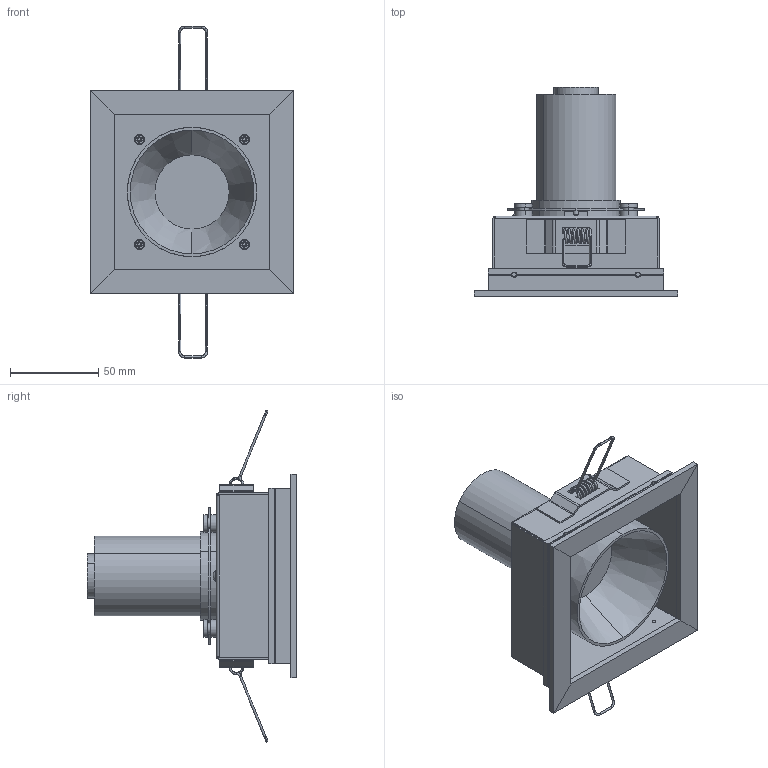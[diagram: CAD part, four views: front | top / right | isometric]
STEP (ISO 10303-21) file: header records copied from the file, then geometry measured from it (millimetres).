
FILE_DESCRIPTION (( 'STEP AP214' ), '1' );
FILE_NAME ('Ringo Box 1.1.STEP', '2018-04-24T14:54:35', ( 'tecnica2' ), ( 'Microsoft' ), 'SwSTEP 2.0', 'SolidWorks 2016', '' );
FILE_SCHEMA (( 'AUTOMOTIVE_DESIGN' ));
Length unit declared in the file: millimetre
Products named in the file (15): aro giratorio_lamp50(para pieza giro); Pieza interior basculanates ringO_R1 sin teton; MODULOS VS-BIM_10W; prisionero M3x3; Muelle pinza_Primera instancia; escuadra muelle_Demetal; Marco Aluminio_1D50 (110x110); Perfil Marco_1D50 L:115mm roscada; Perfil Marco_1D50 L:115mm; Caja_Box 1D50 superficie; Ringo Box 1.1; Remache 4.0-Generico_*7; M3 -Avellanedo Torx_6; Arandela Giro_reducida; prisionero M3x4
Assembly tree (28 placements, depth 3):
  Ringo Box 1.1
    Caja_Box 1D50 superficie
    Marco Aluminio_1D50 (110x110)
      Perfil Marco_1D50 L:115mm  x2
      Perfil Marco_1D50 L:115mm roscada  x2
    escuadra muelle_Demetal  x2
    Muelle pinza_Primera instancia  x2
    prisionero M3x3  x4
    MODULOS VS-BIM_10W
    Pieza interior basculanates ringO_R1 sin teton
    aro giratorio_lamp50(para pieza giro)
    prisionero M3x4
    Arandela Giro_reducida  x4
    M3 -Avellanedo Torx_6  x4
    Remache 4.0-Generico_*7  x2
Bounding box: 115 x 118.4 x 187.77 mm (x, y, z)
Volume: 211470.6 mm3; surface area: 130308.7 mm2
Topology: 27 solids, 27 shells, 706 faces, 1761 edges, 1095 vertices
Faces by surface type: plane 322, cylinder 234, torus 60, cone 44, sphere 32, bspline 14
Entity records: 18327 total; most frequent: CARTESIAN_POINT 8102, DIRECTION 2026, ORIENTED_EDGE 1962, EDGE_CURVE 981, AXIS2_PLACEMENT_3D 748, VERTEX_POINT 622, LINE 530, VECTOR 530
